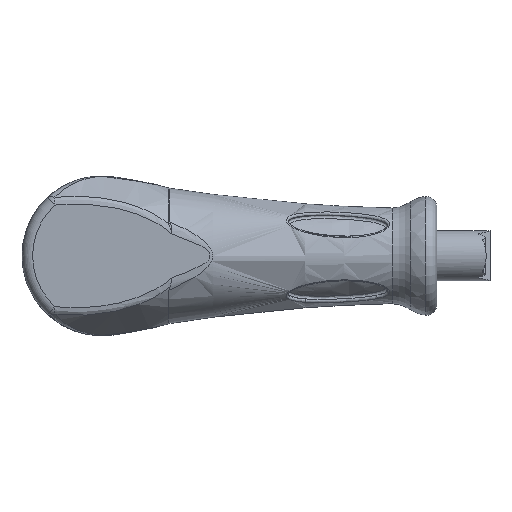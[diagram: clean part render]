
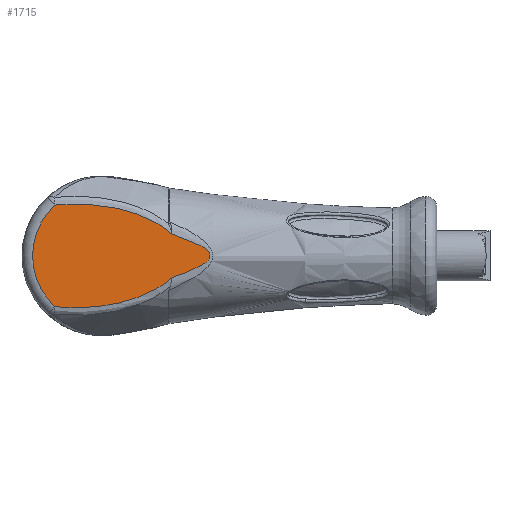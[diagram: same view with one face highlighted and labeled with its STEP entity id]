
A CAD part, top view. The second image highlights one B-rep face of the part: STEP entity #1715.
In plain terms, the highlighted planar face has unit normal (0, 0, 1).
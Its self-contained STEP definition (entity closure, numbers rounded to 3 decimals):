
#143=CARTESIAN_POINT('',(14.104,2.036,5.8));
#144=VERTEX_POINT('',#143);
#1605=CARTESIAN_POINT('',(14.104,-2.036,5.8));
#1606=VERTEX_POINT('',#1605);
#1607=CARTESIAN_POINT('',(14.104,2.037,5.8));
#1608=CARTESIAN_POINT('',(14.37,1.949,5.8));
#1609=CARTESIAN_POINT('',(14.852,1.785,5.8));
#1610=CARTESIAN_POINT('',(15.546,1.529,5.8));
#1611=CARTESIAN_POINT('',(16.082,1.307,5.8));
#1612=CARTESIAN_POINT('',(16.499,1.111,5.8));
#1613=CARTESIAN_POINT('',(16.803,0.95,5.8));
#1614=CARTESIAN_POINT('',(17.097,0.772,5.8));
#1615=CARTESIAN_POINT('',(17.371,0.559,5.8));
#1616=CARTESIAN_POINT('',(17.606,0.303,5.8));
#1617=CARTESIAN_POINT('',(17.706,-0.05,5.8));
#1618=CARTESIAN_POINT('',(17.574,-0.325,5.8));
#1619=CARTESIAN_POINT('',(17.425,-0.498,5.8));
#1620=CARTESIAN_POINT('',(17.168,-0.732,5.8));
#1621=CARTESIAN_POINT('',(16.825,-0.943,5.8));
#1622=CARTESIAN_POINT('',(16.416,-1.152,5.8));
#1623=CARTESIAN_POINT('',(15.786,-1.44,5.8));
#1624=CARTESIAN_POINT('',(15.011,-1.732,5.8));
#1625=CARTESIAN_POINT('',(14.34,-1.959,5.8));
#1626=CARTESIAN_POINT('',(14.104,-2.037,5.8));
#1627=B_SPLINE_CURVE_WITH_KNOTS('',3,(#1607,#1608,#1609,#1610,#1611,#1612,#1613,#1614,#1615,#1616,#1617,#1618,#1619,#1620,#1621,#1622,#1623,#1624,#1625,#1626),.UNSPECIFIED.,.F.,.U.,(4,1,1,1,1,1,1,1,1,1,1,1,1,1,1,1,1,4),(1.572,1.656,1.725,1.794,1.828,1.863,1.897,1.931,1.966,2.,2.035,2.052,2.069,2.138,2.173,2.207,2.345,2.42),.UNSPECIFIED.);
#1628=EDGE_CURVE('',#144,#1606,#1627,.T.);
#1658=CARTESIAN_POINT('',(0.,0.0,5.8));
#1659=DIRECTION('',(0.0,0.0,-1.0));
#1660=DIRECTION('',(-1.0,0.0,0.0));
#1661=AXIS2_PLACEMENT_3D('',#1658,#1659,#1660);
#1662=PLANE('',#1661);
#1663=CARTESIAN_POINT('',(12.676,-3.081,5.8));
#1664=VERTEX_POINT('',#1663);
#1665=CARTESIAN_POINT('',(14.104,-2.036,5.8));
#1666=CARTESIAN_POINT('',(13.703,-2.423,5.8));
#1667=CARTESIAN_POINT('',(13.22,-2.765,5.8));
#1668=CARTESIAN_POINT('',(12.708,-3.062,5.8));
#1669=CARTESIAN_POINT('',(12.676,-3.081,5.8));
#1670=B_SPLINE_CURVE_WITH_KNOTS('',3,(#1665,#1666,#1667,#1668,#1669),.UNSPECIFIED.,.F.,.U.,(4,1,4),(2.025,2.19,2.202),.UNSPECIFIED.);
#1671=EDGE_CURVE('',#1606,#1664,#1670,.T.);
#1672=ORIENTED_EDGE('',*,*,#1671,.F.);
#1673=ORIENTED_EDGE('',*,*,#1628,.F.);
#1674=CARTESIAN_POINT('',(12.676,3.081,5.8));
#1675=VERTEX_POINT('',#1674);
#1676=CARTESIAN_POINT('',(12.676,3.081,5.8));
#1677=CARTESIAN_POINT('',(12.708,3.063,5.8));
#1678=CARTESIAN_POINT('',(13.22,2.766,5.8));
#1679=CARTESIAN_POINT('',(13.703,2.423,5.8));
#1680=CARTESIAN_POINT('',(14.104,2.036,5.8));
#1681=B_SPLINE_CURVE_WITH_KNOTS('',3,(#1676,#1677,#1678,#1679,#1680),.UNSPECIFIED.,.F.,.U.,(4,1,4),(0.983,0.994,1.16),.UNSPECIFIED.);
#1682=EDGE_CURVE('',#1675,#144,#1681,.T.);
#1683=ORIENTED_EDGE('',*,*,#1682,.F.);
#1684=CARTESIAN_POINT('',(3.085,4.77,5.8));
#1685=VERTEX_POINT('',#1684);
#1686=CARTESIAN_POINT('',(3.085,4.77,5.8));
#1687=CARTESIAN_POINT('',(4.731,4.957,5.8));
#1688=CARTESIAN_POINT('',(7.559,4.887,5.8));
#1689=CARTESIAN_POINT('',(10.748,4.037,5.8));
#1690=CARTESIAN_POINT('',(12.227,3.338,5.8));
#1691=CARTESIAN_POINT('',(12.676,3.081,5.8));
#1692=B_SPLINE_CURVE_WITH_KNOTS('',3,(#1686,#1687,#1688,#1689,#1690,#1691),.UNSPECIFIED.,.F.,.U.,(4,1,1,4),(0.0,0.497,0.828,0.983),.UNSPECIFIED.);
#1693=EDGE_CURVE('',#1685,#1675,#1692,.T.);
#1694=ORIENTED_EDGE('',*,*,#1693,.F.);
#1695=CARTESIAN_POINT('',(3.085,-4.77,5.8));
#1696=VERTEX_POINT('',#1695);
#1697=CARTESIAN_POINT('',(7.5,0.,5.8));
#1698=DIRECTION('',(0.0,0.0,-1.0));
#1699=DIRECTION('',(-1.0,0.0,0.0));
#1700=AXIS2_PLACEMENT_3D('',#1697,#1698,#1699);
#1701=CIRCLE('',#1700,6.5);
#1702=EDGE_CURVE('',#1696,#1685,#1701,.T.);
#1703=ORIENTED_EDGE('',*,*,#1702,.F.);
#1704=CARTESIAN_POINT('',(12.676,-3.081,5.8));
#1705=CARTESIAN_POINT('',(12.227,-3.338,5.8));
#1706=CARTESIAN_POINT('',(11.253,-3.8,5.8));
#1707=CARTESIAN_POINT('',(8.129,-4.833,5.8));
#1708=CARTESIAN_POINT('',(5.28,-5.019,5.8));
#1709=CARTESIAN_POINT('',(3.085,-4.77,5.8));
#1710=B_SPLINE_CURVE_WITH_KNOTS('',3,(#1704,#1705,#1706,#1707,#1708,#1709),.UNSPECIFIED.,.F.,.U.,(4,1,1,4),(2.202,2.356,2.522,3.185),.UNSPECIFIED.);
#1711=EDGE_CURVE('',#1664,#1696,#1710,.T.);
#1712=ORIENTED_EDGE('',*,*,#1711,.F.);
#1713=EDGE_LOOP('',(#1672,#1673,#1683,#1694,#1703,#1712));
#1714=FACE_OUTER_BOUND('',#1713,.T.);
#1715=ADVANCED_FACE('',(#1714),#1662,.F.);
